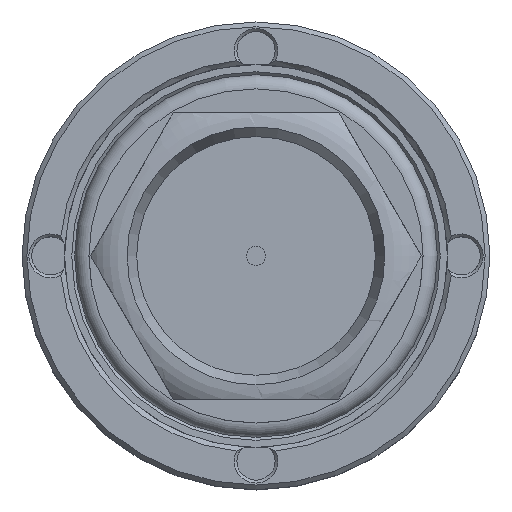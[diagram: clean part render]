
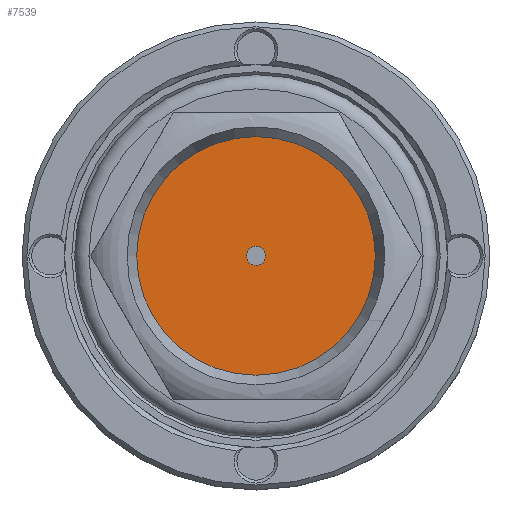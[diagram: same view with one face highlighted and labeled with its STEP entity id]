
A CAD part, top view. The second image highlights one B-rep face of the part: STEP entity #7539.
In plain terms, the highlighted planar face has unit normal (0, 0, 1).
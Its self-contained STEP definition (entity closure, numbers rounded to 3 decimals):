
#1254=FACE_BOUND('',#1971,.T.);
#1296=PLANE('',#8131);
#1624=FACE_OUTER_BOUND('',#1970,.T.);
#1970=EDGE_LOOP('',(#7159));
#1971=EDGE_LOOP('',(#7160));
#2077=CIRCLE('',#8130,1.);
#2078=CIRCLE('',#8132,12.5);
#3678=VERTEX_POINT('',#18348);
#3679=VERTEX_POINT('',#18352);
#4841=EDGE_CURVE('',#3678,#3678,#2077,.T.);
#4843=EDGE_CURVE('',#3679,#3679,#2078,.T.);
#7159=ORIENTED_EDGE('',*,*,#4843,.F.);
#7160=ORIENTED_EDGE('',*,*,#4841,.T.);
#7539=ADVANCED_FACE('',(#1624,#1254),#1296,.T.);
#8130=AXIS2_PLACEMENT_3D('',#18349,#9316,#9317);
#8131=AXIS2_PLACEMENT_3D('',#18351,#9319,#9320);
#8132=AXIS2_PLACEMENT_3D('',#18353,#9321,#9322);
#9316=DIRECTION('center_axis',(0.,0.,-1.));
#9317=DIRECTION('ref_axis',(1.,0.,0.));
#9319=DIRECTION('center_axis',(0.,0.,1.));
#9320=DIRECTION('ref_axis',(1.,0.,0.));
#9321=DIRECTION('center_axis',(0.,0.,-1.));
#9322=DIRECTION('ref_axis',(1.,0.,0.));
#18348=CARTESIAN_POINT('',(0.,-1.,-2.));
#18349=CARTESIAN_POINT('Origin',(0.,0.,-2.));
#18351=CARTESIAN_POINT('Origin',(0.,12.5,-2.));
#18352=CARTESIAN_POINT('',(0.,-12.5,-2.));
#18353=CARTESIAN_POINT('Origin',(0.,0.,-2.));
